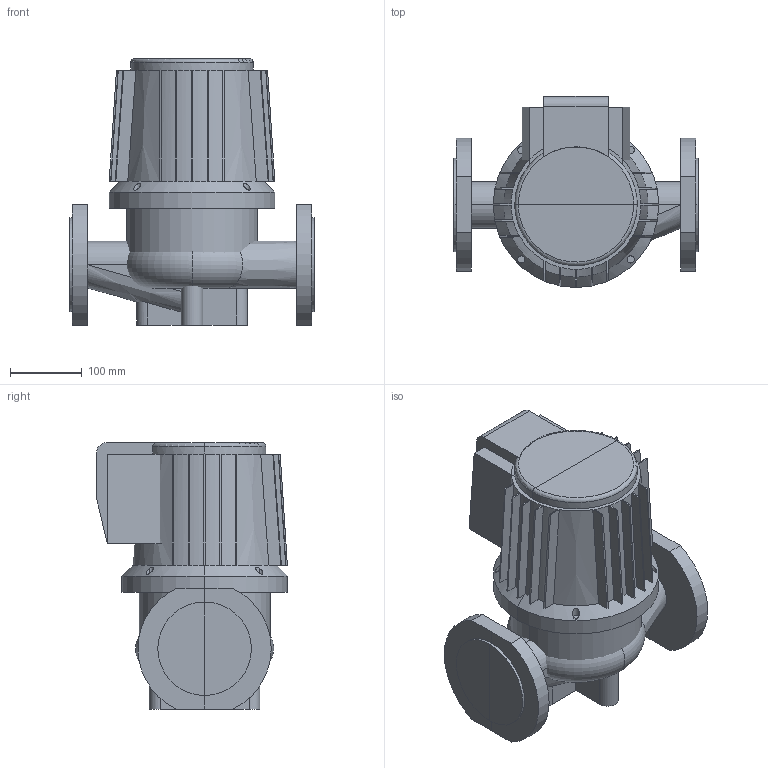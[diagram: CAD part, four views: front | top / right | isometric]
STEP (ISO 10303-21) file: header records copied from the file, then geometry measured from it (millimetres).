
FILE_DESCRIPTION(/* description */ (''),/* implementation_level */ '2;1');
FILE_NAME(/* name */ 'C:\Users\a.zyazeva\Desktop\Wellmix\TG TD WRE WRS\WRS 65-130 SF (380 В).stp',/* time_stamp */ '2024-08-28T00:51:15+03:00',/* author */ ('a.zyazeva'),/* organization */ (''),/* preprocessor_version */ 'ST-DEVELOPER v18.1',/* originating_system */ 'Autodesk Inventor 2022',/* authorisation */ '');
FILE_SCHEMA (('AUTOMOTIVE_DESIGN { 1 0 10303 214 3 1 1 }'));
Length unit declared in the file: millimetre
Products named in the file (1): WRS 65-130 SF (380 В)
Bounding box: 340 x 265 x 370 mm (x, y, z)
Volume: 15163919.8 mm3; surface area: 878099.2 mm2
Topology: 6 solids, 6 shells, 175 faces, 427 edges, 265 vertices
Faces by surface type: plane 105, cylinder 30, cone 17, bspline 17, torus 6
Entity records: 6672 total; most frequent: CARTESIAN_POINT 2759, ORIENTED_EDGE 854, DIRECTION 725, EDGE_CURVE 427, VERTEX_POINT 265, AXIS2_PLACEMENT_3D 258, LINE 209, VECTOR 209
